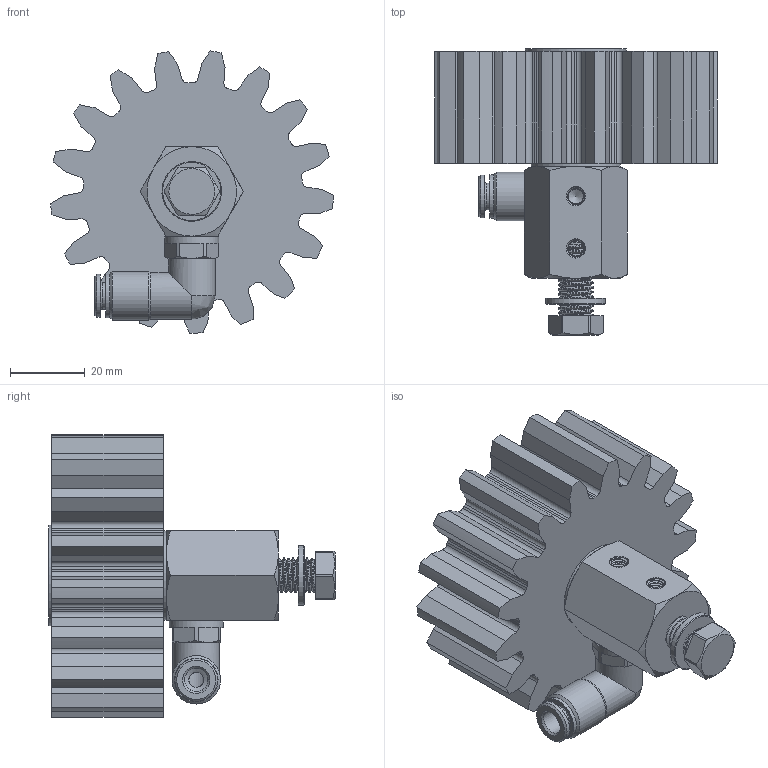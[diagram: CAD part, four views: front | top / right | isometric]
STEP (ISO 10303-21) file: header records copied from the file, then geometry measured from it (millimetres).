
FILE_DESCRIPTION (( 'STEP AP214' ), '1' );
FILE_NAME ('012_13_04_30_17BZ.STEP', '2026-04-08T12:03:19', ( '' ), ( '' ), 'SwSTEP 2.0', 'SolidWorks 2022', '' );
FILE_SCHEMA (( 'AUTOMOTIVE_DESIGN' ));
Length unit declared in the file: millimetre
Products named in the file (13): 12012_06_01_Scheibe-CRS-VA_27.SLDASM; OR 7.2X1.9_1; H202242_HDS022_6_M10X1_08.05.17(1); Schmierzahnrad_04_30_17G; 012_13_04_30_17BZ; U_Scheibe_8,4; RIVOLUZIONE_0_2; Schraube_M8_20; 12012_06_00_Scheibe-CRS-VA.SLDASM; RH202242; 012_13b_01_winklige_Achse_lang_M8_1; 012_06_Senkschraube; DR6-C_HDX_25.07.16_1
Assembly tree (12 placements, depth 3):
  012_13_04_30_17BZ
    012_13b_01_winklige_Achse_lang_M8_1
    Schraube_M8_20
    U_Scheibe_8,4
    H202242_HDS022_6_M10X1_08.05.17(1)
      OR 7.2X1.9_1
      RH202242
      DR6-C_HDX_25.07.16_1
      RIVOLUZIONE_0_2
    12012_06_00_Scheibe-CRS-VA.SLDASM
    12012_06_01_Scheibe-CRS-VA_27.SLDASM
    012_06_Senkschraube
    Schmierzahnrad_04_30_17G
Bounding box: 75.86 x 76.9 x 75.7 mm (x, y, z)
Volume: 128153.5 mm3; surface area: 33452 mm2
Topology: 11 solids, 11 shells, 700 faces, 1911 edges, 1267 vertices
Faces by surface type: plane 420, bspline 116, cylinder 107, cone 54, torus 3
Full cylindrical faces by diameter (mm): 3 x1, 4 x2, 5.5 x1, 6 x1, 6.2 x1, 6.3 x1, 6.5 x1, 7.2 x1, 8.4 x1, 8.5 x1, 9 x10, 9.9 x1, 10 x3, 10.1 x2, 10.3 x1, 11.5 x1, 11.7 x1, 12.5 x2, 13 x1, 14.5 x1, 16 x1, 24 x1, 27 x1
Entity records: 44016 total; most frequent: CARTESIAN_POINT 26665, ORIENTED_EDGE 3526, DIRECTION 2825, EDGE_CURVE 1763, VERTEX_POINT 1202, LINE 1147, VECTOR 1147, AXIS2_PLACEMENT_3D 839
